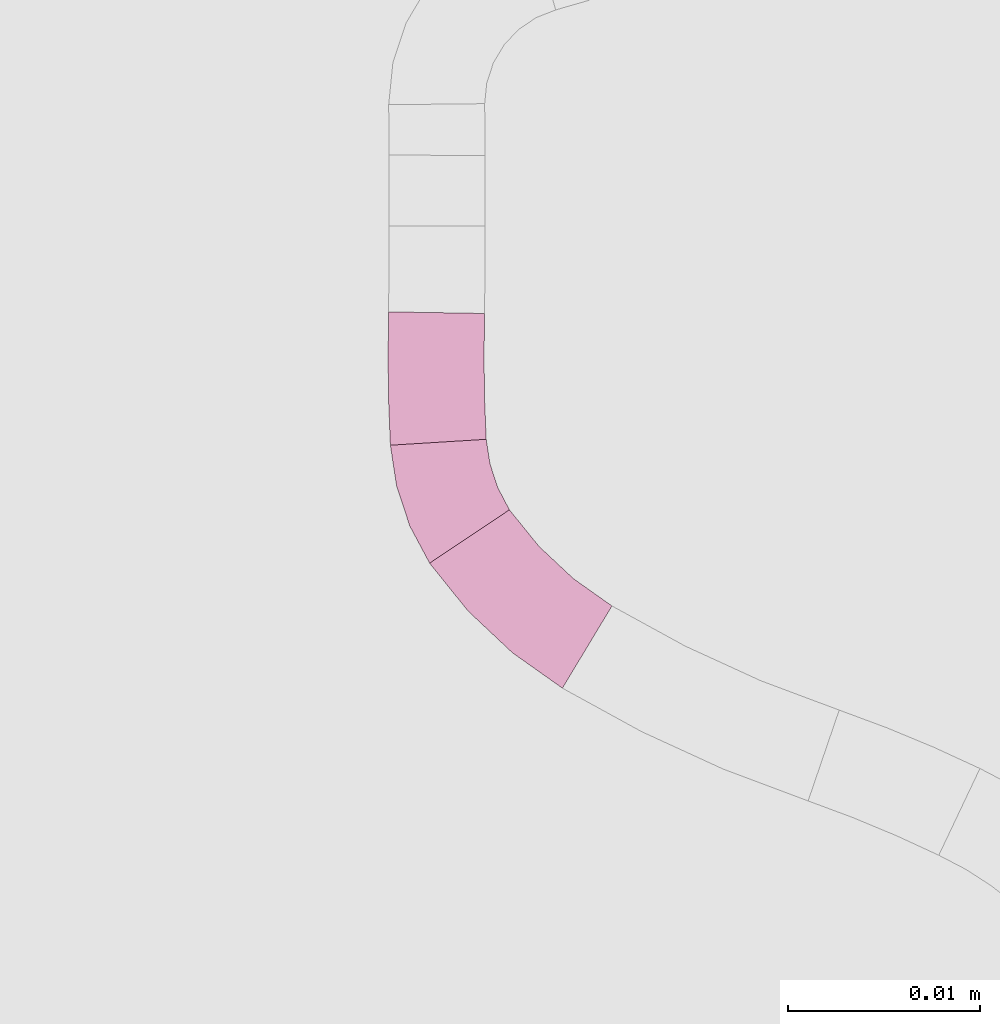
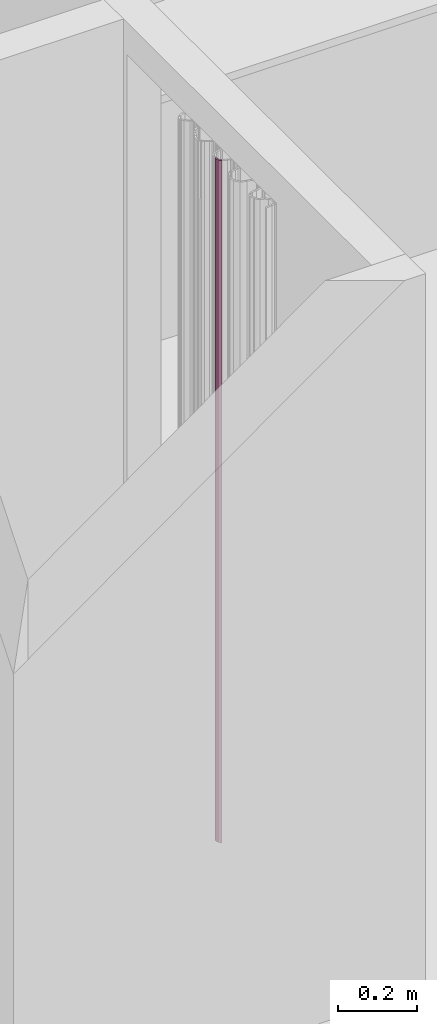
# One storey, part 314 of 418: 3 furnishings.
"""IFC2X3 building model written with IfcOpenShell, lengths in millimetres."""

from ifc_helpers import new_model, entity, si_unit, converted_unit, derived_unit, money_unit, point, direction, frame, frame_2d, origin_with_axes, place, context, subcontext, project, spatial, polyline, circle_curve, parameter, trimmed, segment, composite_curve, outline, extrude, material, type_object, element, save


model = new_model("IFC2X3")

# Units and contexts
model_context = context("Model", 3, precision=0.01, world=origin_with_axes(), true_north=direction((0.0, 1.0)))
body_context = subcontext(model_context, "Body", "Model", "MODEL_VIEW")
ifc_project = project(units=[si_unit("LENGTHUNIT", "METRE", prefix="MILLI"), si_unit("AREAUNIT", "SQUARE_METRE"), si_unit("VOLUMEUNIT", "CUBIC_METRE"), converted_unit("PLANEANGLEUNIT", "DEGREE", entity("IfcPlaneAngleMeasure", 0.0174532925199), si_unit("PLANEANGLEUNIT", "RADIAN"), dimensions=[0, 0, 0, 0, 0, 0, 0]), si_unit("SOLIDANGLEUNIT", "STERADIAN"), money_unit("EUR"), converted_unit("TIMEUNIT", "Year", entity("IfcTimeMeasure", 31556926.0), si_unit("TIMEUNIT", "SECOND"), dimensions=[0, 0, 1, 0, 0, 0, 0]), si_unit("MASSUNIT", "GRAM", prefix="KILO"), si_unit("THERMODYNAMICTEMPERATUREUNIT", "DEGREE_CELSIUS"), si_unit("LUMINOUSINTENSITYUNIT", "LUMEN"), si_unit("ENERGYUNIT", "JOULE", prefix="MEGA"), derived_unit("THERMALCONDUCTANCEUNIT", [(si_unit("POWERUNIT", "WATT"), 1), (si_unit("LENGTHUNIT", "METRE"), -1), (si_unit("THERMODYNAMICTEMPERATUREUNIT", "KELVIN"), -1)]), derived_unit("SPECIFICHEATCAPACITYUNIT", [(si_unit("ENERGYUNIT", "JOULE"), 1), (si_unit("MASSUNIT", "GRAM", prefix="KILO"), -1), (si_unit("THERMODYNAMICTEMPERATUREUNIT", "KELVIN"), -1)]), derived_unit("MASSDENSITYUNIT", [(si_unit("MASSUNIT", "GRAM", prefix="KILO"), 1), (si_unit("VOLUMEUNIT", "CUBIC_METRE"), -1)])], contexts=[model_context])

# Site, building, storey
site_placement = place(None, origin_with_axes())
site = spatial("IfcSite", under=ifc_project, at=site_placement, Name="Paldiski mnt 245/1, Tallinn, Harjumaa", CompositionType="COMPLEX")
building_placement = place(site_placement, origin_with_axes())
building = spatial("IfcBuilding", under=site, at=building_placement, Name="RKAS Hoone üldnimetus (kasutust iseloomustav) -> IFC Project Manager -> SOLIBRI", CompositionType="ELEMENT")
storey_placement = place(building_placement, origin_with_axes())
storey = spatial("IfcBuildingStorey", under=building, at=storey_placement, Name="Esimene korrus", CompositionType="ELEMENT", Elevation=0.0)

# Furnishings
ifc_material = material(Name="KON-00_GENEERILINE - KONSTRUKTSIOON")
furniture_type = type_object("IfcFurnitureType", Name="KON-00_GENEERILINE - KONSTRUKTSIOON 5", AssemblyPlace="NOTDEFINED")
furnishing_1_placement = place(storey_placement, frame((-44054.4131444, -2092.45057527, 0.0), z_axis=(0.0, 0.0, 1.0), x_axis=(0.570752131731, -0.82112240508, 0.0)))
element("IfcFurnishingElement", 1, at=furnishing_1_placement, inside=storey, type_object=furniture_type, material=ifc_material, Name="SS-15", context=body_context, shape_type="SweptSolid", body=[
    extrude(outline(composite_curve([segment(trimmed(circle_curve(frame_2d((0.0, 22.9566298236), x_axis=(0.0, -1.0)), 22.9566298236), [point((0.0, 0.0)), parameter(0.0)], [point((9.29368730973, 1.96534046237)), parameter(23.8808971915)], True, "CARTESIAN"), True, "CONTINUOUS"), segment(polyline([(9.29368730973, 1.96534046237), (7.2503302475, 6.5288099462)]), True, "CONTINUOUS"), segment(trimmed(circle_curve(frame_2d((0.0, 22.9566298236), x_axis=(0.00496666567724, -0.99998766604)), 17.9566298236), [point((7.2503302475, 6.5288099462)), parameter(23.5294384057)], [point((0.0891845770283, 5.00022147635)), parameter(0.0)], False, "CARTESIAN"), True, "CONTINUOUS"), segment(polyline([(0.0891845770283, 5.00022147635), (0.0, 0.0)]), True, "CONTINUOUS")], self_intersect=False)), origin_with_axes(), (0.0, 0.0, 1.0), 2100.0),
])
furnishing_2_placement = place(storey_placement, frame((-44056.4561572, -2086.30571264, 0.0), z_axis=(0.0, 0.0, 1.0), x_axis=(0.0681126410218, -0.997677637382, 0.0)))
element("IfcFurnishingElement", 2, at=furnishing_2_placement, inside=storey, type_object=furniture_type, material=ifc_material, Name="SS-14", context=body_context, shape_type="SweptSolid", body=[
    extrude(outline(composite_curve([segment(trimmed(circle_curve(frame_2d((0.0, 12.9445519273), x_axis=(0.0, -1.0)), 12.9445519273), [point((0.0, 0.0)), parameter(0.0)], [point((6.26974702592, 1.61972535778)), parameter(28.9701646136)], True, "CARTESIAN"), True, "CONTINUOUS"), segment(polyline([(6.26974702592, 1.61972535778), (3.7786726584, 5.95616597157)]), True, "CONTINUOUS"), segment(trimmed(circle_curve(frame_2d((0.0, 12.9445519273), x_axis=(0.00417164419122, -0.999991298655)), 7.94455192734), [point((3.7786726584, 5.95616597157)), parameter(28.1614033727)], [point((0.0331418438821, 5.00006912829)), parameter(0.0)], False, "CARTESIAN"), True, "CONTINUOUS"), segment(polyline([(0.0331418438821, 5.00006912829), (0.0, 0.0)]), True, "CONTINUOUS")], self_intersect=False)), origin_with_axes(), (0.0, 0.0, 1.0), 2100.0),
])
furnishing_3_placement = place(storey_placement, frame((-44056.5443906, -2079.35808464, 0.0), z_axis=(0.0, 0.0, 1.0), x_axis=(-0.0279257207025, -0.999610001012, 0.0)))
element("IfcFurnishingElement", 3, at=furnishing_3_placement, inside=storey, type_object=furniture_type, material=ifc_material, Name="SS-13", context=body_context, shape_type="SweptSolid", body=[
    extrude(outline(composite_curve([segment(trimmed(circle_curve(frame_2d((0.0, 85.5324110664), x_axis=(0.0, -1.0)), 85.5324110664), [point((0.0, 0.0)), parameter(0.0)], [point((6.94245445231, 0.282216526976)), parameter(4.65567848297)], True, "CARTESIAN"), True, "CONTINUOUS"), segment(polyline([(6.94245445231, 0.282216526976), (6.4957020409, 5.26239744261)]), True, "CONTINUOUS"), segment(trimmed(circle_curve(frame_2d((0.0, 85.5324110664), x_axis=(-0.000686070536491, -0.999999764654)), 80.5324110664), [point((6.4957020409, 5.26239744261)), parameter(4.66578235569)], [point((-0.0552509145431, 5.00001895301)), parameter(0.0)], False, "CARTESIAN"), True, "CONTINUOUS"), segment(polyline([(-0.0552509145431, 5.00001895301), (0.0, 0.0)]), True, "CONTINUOUS")], self_intersect=False)), origin_with_axes(), (0.0, 0.0, 1.0), 2100.0),
])

save(model, "model.ifc")
